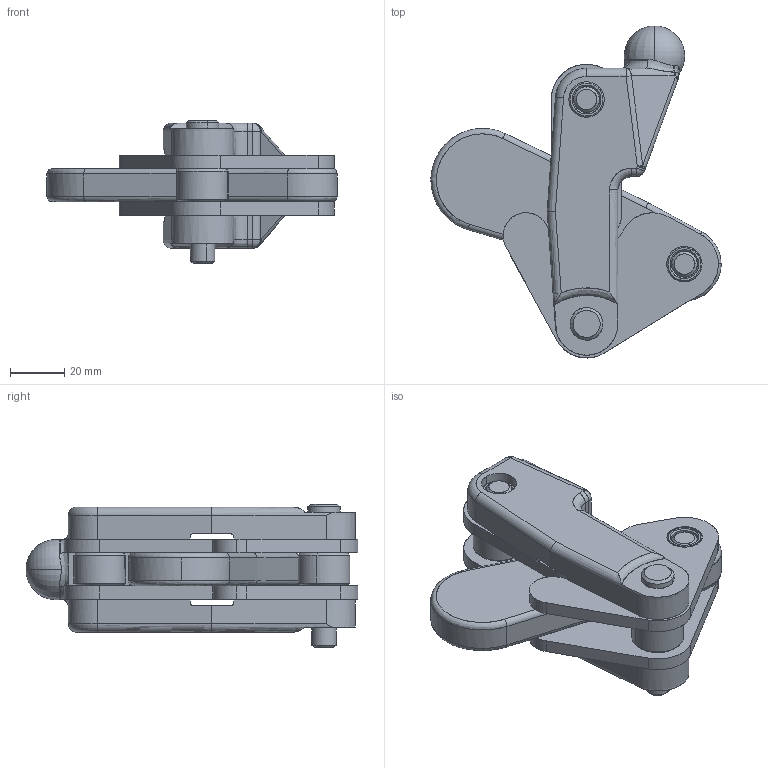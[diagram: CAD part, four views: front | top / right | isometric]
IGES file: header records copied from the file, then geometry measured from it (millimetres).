
Start section: Comment
Global section: file name: 70505.igs; native system:  By Spatial Corp.; preprocessor: XPlus PS/IGES 3.0; author: Author; organization: Title; date: 20050217.132120; units: inch
Bounding box: 106.78 x 122.19 x 53 mm (x, y, z)
Surface area: 60653.3 mm2 (no closed solid volume)
Topology: 0 solids, 0 shells, 362 faces, 1624 edges, 1608 vertices
Faces by surface type: revolution 266, extrusion 84, bspline 12
